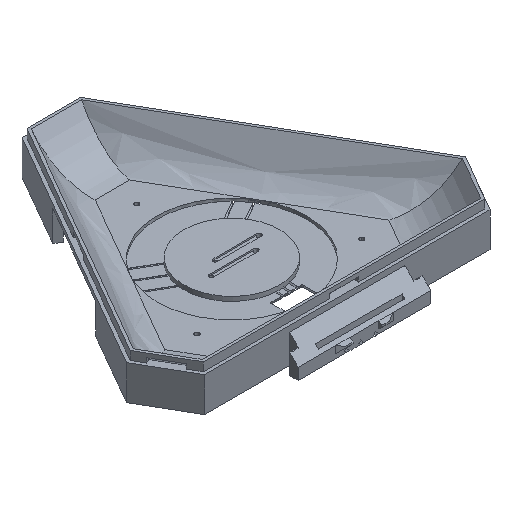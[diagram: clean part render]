
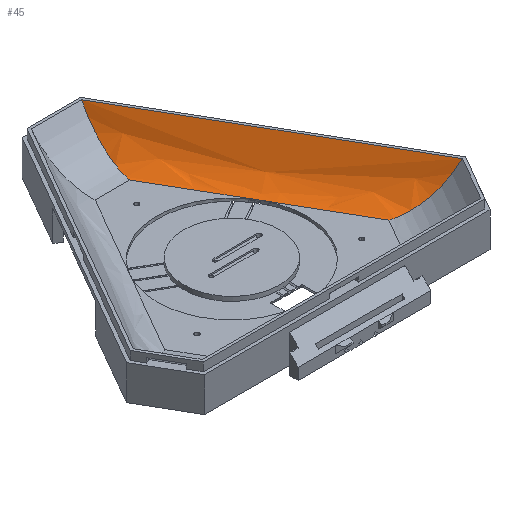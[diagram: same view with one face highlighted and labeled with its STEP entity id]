
A CAD part, isometric view. The second image highlights one B-rep face of the part: STEP entity #45.
In plain terms, the highlighted free-form (B-spline) face has degree [1, 3] with [2, 4] control points.
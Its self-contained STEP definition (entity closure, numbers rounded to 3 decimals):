
#45=ADVANCED_FACE($,(#436),#5373,.T.);
#436=FACE_OUTER_BOUND($,#814,.T.);
#814=EDGE_LOOP($,(#1341,#1342,#1343,#1344,#1345));
#1341=ORIENTED_EDGE($,*,*,#3558,.T.);
#1342=ORIENTED_EDGE($,*,*,#3548,.T.);
#1343=ORIENTED_EDGE($,*,*,#3539,.T.);
#1344=ORIENTED_EDGE($,*,*,#3560,.F.);
#1345=ORIENTED_EDGE($,*,*,#3559,.T.);
#3539=EDGE_CURVE($,#4652,#4651,#5964,.T.);
#3548=EDGE_CURVE($,#4658,#4652,#5971,.T.);
#3558=EDGE_CURVE($,#4663,#4658,#5981,.T.);
#3559=EDGE_CURVE($,#4664,#4663,#5982,.T.);
#3560=EDGE_CURVE($,#4664,#4651,#5983,.T.);
#4651=VERTEX_POINT($,#14861);
#4652=VERTEX_POINT($,#14862);
#4658=VERTEX_POINT($,#14868);
#4663=VERTEX_POINT($,#14873);
#4664=VERTEX_POINT($,#14874);
#5373=B_SPLINE_SURFACE_WITH_KNOTS($,1,3,((#12154,#12155,#12156,#12157),(#12158,
#12159,#12160,#12161)),.UNSPECIFIED.,.F.,.F.,.F.,(2,2),(4,4),(7.588,
46.254),(0.,1.),.UNSPECIFIED.);
#5964=B_SPLINE_CURVE_WITH_KNOTS($,1,(#7582,#7583),.UNSPECIFIED.,.F.,.F.,
(2,2),(102.429,121.762),.UNSPECIFIED.);
#5971=B_SPLINE_CURVE_WITH_KNOTS($,1,(#7732,#7733),.UNSPECIFIED.,.F.,.F.,
(2,2),(83.096,102.429),.UNSPECIFIED.);
#5981=B_SPLINE_CURVE_WITH_KNOTS($,3,(#7856,#7857,#7858,#7859),.UNSPECIFIED.,
.F.,.F.,(4,4),(0.,1.),.UNSPECIFIED.);
#5982=B_SPLINE_CURVE_WITH_KNOTS($,1,(#7860,#7861),.UNSPECIFIED.,.F.,.F.,
(2,2),(7.588,46.254),.UNSPECIFIED.);
#5983=B_SPLINE_CURVE_WITH_KNOTS($,3,(#7862,#7863,#7864,#7865),.UNSPECIFIED.,
.F.,.F.,(4,4),(0.,1.),.UNSPECIFIED.);
#7582=CARTESIAN_POINT($,(22.418,12.943,2.));
#7583=CARTESIAN_POINT($,(38.88,-15.57,2.));
#7732=CARTESIAN_POINT($,(5.956,41.456,2.));
#7733=CARTESIAN_POINT($,(22.418,12.943,2.));
#7856=CARTESIAN_POINT($,(8.743,60.857,15.));
#7857=CARTESIAN_POINT($,(7.545,52.519,2.));
#7858=CARTESIAN_POINT($,(5.956,41.456,2.));
#7859=CARTESIAN_POINT($,(5.956,41.456,2.));
#7860=CARTESIAN_POINT($,(57.075,-22.857,15.));
#7861=CARTESIAN_POINT($,(8.743,60.857,15.));
#7862=CARTESIAN_POINT($,(57.075,-22.857,15.));
#7863=CARTESIAN_POINT($,(49.255,-19.725,2.));
#7864=CARTESIAN_POINT($,(38.88,-15.57,2.));
#7865=CARTESIAN_POINT($,(38.88,-15.57,2.));
#12154=CARTESIAN_POINT($,(57.075,-22.857,15.));
#12155=CARTESIAN_POINT($,(49.255,-19.725,2.));
#12156=CARTESIAN_POINT($,(38.88,-15.57,2.));
#12157=CARTESIAN_POINT($,(38.88,-15.57,2.));
#12158=CARTESIAN_POINT($,(8.743,60.857,15.));
#12159=CARTESIAN_POINT($,(7.545,52.519,2.));
#12160=CARTESIAN_POINT($,(5.956,41.456,2.));
#12161=CARTESIAN_POINT($,(5.956,41.456,2.));
#14861=CARTESIAN_POINT($,(38.88,-15.57,2.));
#14862=CARTESIAN_POINT($,(22.418,12.943,2.));
#14868=CARTESIAN_POINT($,(5.956,41.456,2.));
#14873=CARTESIAN_POINT($,(8.743,60.857,15.));
#14874=CARTESIAN_POINT($,(57.075,-22.857,15.));
